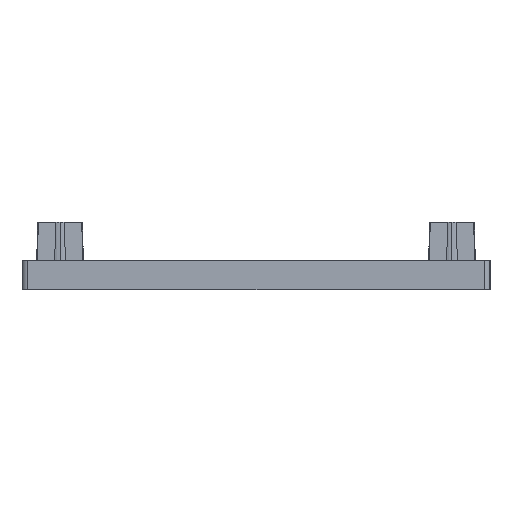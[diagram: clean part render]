
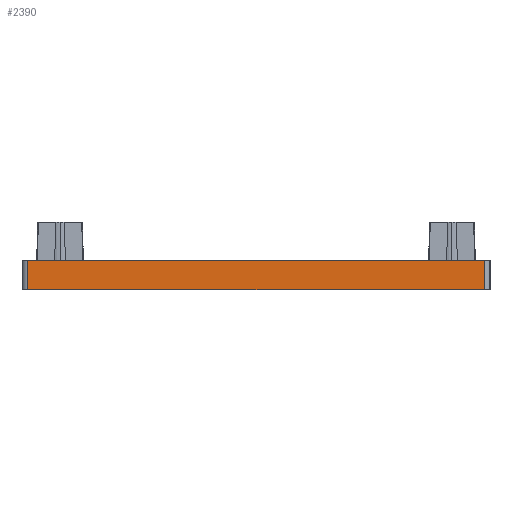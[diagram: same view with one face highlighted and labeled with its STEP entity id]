
A CAD part, left-side view. The second image highlights one B-rep face of the part: STEP entity #2390.
In plain terms, the highlighted planar face has unit normal (-1, 0, 0).
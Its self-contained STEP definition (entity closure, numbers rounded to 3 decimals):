
#19 = DIRECTION ( 'NONE',  ( 0., 0., 1. ) ) ;
#50 = VERTEX_POINT ( 'NONE', #451 ) ;
#68 = VERTEX_POINT ( 'NONE', #1239 ) ;
#70 = CARTESIAN_POINT ( 'NONE',  ( -80., 40., 0. ) ) ;
#129 = EDGE_CURVE ( 'NONE', #50, #865, #312, .T. ) ;
#211 = ORIENTED_EDGE ( 'NONE', *, *, #1757, .T. ) ;
#266 = DIRECTION ( 'NONE',  ( 0., 0., -1. ) ) ;
#312 = LINE ( 'NONE', #817, #1885 ) ;
#451 = CARTESIAN_POINT ( 'NONE',  ( -80., 39., 5. ) ) ;
#464 = ORIENTED_EDGE ( 'NONE', *, *, #1316, .T. ) ;
#470 = DIRECTION ( 'NONE',  ( 0., -1., 0. ) ) ;
#631 = CARTESIAN_POINT ( 'NONE',  ( -80., -39., 0. ) ) ;
#647 = AXIS2_PLACEMENT_3D ( 'NONE', #70, #1714, #19 ) ;
#652 = LINE ( 'NONE', #1412, #1692 ) ;
#713 = LINE ( 'NONE', #2165, #2401 ) ;
#817 = CARTESIAN_POINT ( 'NONE',  ( -80., 39., 0. ) ) ;
#865 = VERTEX_POINT ( 'NONE', #2438 ) ;
#952 = FACE_OUTER_BOUND ( 'NONE', #1320, .T. ) ;
#986 = ORIENTED_EDGE ( 'NONE', *, *, #1608, .F. ) ;
#1004 = CARTESIAN_POINT ( 'NONE',  ( -80., -39., 0. ) ) ;
#1113 = VERTEX_POINT ( 'NONE', #631 ) ;
#1168 = PLANE ( 'NONE',  #647 ) ;
#1239 = CARTESIAN_POINT ( 'NONE',  ( -80., -39., 5. ) ) ;
#1316 = EDGE_CURVE ( 'NONE', #1113, #68, #2320, .T. ) ;
#1320 = EDGE_LOOP ( 'NONE', ( #986, #1430, #211, #464 ) ) ;
#1412 = CARTESIAN_POINT ( 'NONE',  ( -80., 40., 5. ) ) ;
#1430 = ORIENTED_EDGE ( 'NONE', *, *, #129, .T. ) ;
#1587 = DIRECTION ( 'NONE',  ( 0., 0., 1. ) ) ;
#1608 = EDGE_CURVE ( 'NONE', #50, #68, #652, .T. ) ;
#1692 = VECTOR ( 'NONE', #2337, 1000. ) ;
#1714 = DIRECTION ( 'NONE',  ( -1., 0., 0. ) ) ;
#1757 = EDGE_CURVE ( 'NONE', #865, #1113, #713, .T. ) ;
#1884 = VECTOR ( 'NONE', #1587, 1000. ) ;
#1885 = VECTOR ( 'NONE', #266, 1000. ) ;
#2165 = CARTESIAN_POINT ( 'NONE',  ( -80., 40., 0. ) ) ;
#2320 = LINE ( 'NONE', #1004, #1884 ) ;
#2337 = DIRECTION ( 'NONE',  ( 0., -1., 0. ) ) ;
#2390 = ADVANCED_FACE ( 'NONE', ( #952 ), #1168, .T. ) ;
#2401 = VECTOR ( 'NONE', #470, 1000. ) ;
#2438 = CARTESIAN_POINT ( 'NONE',  ( -80., 39., 0. ) ) ;
